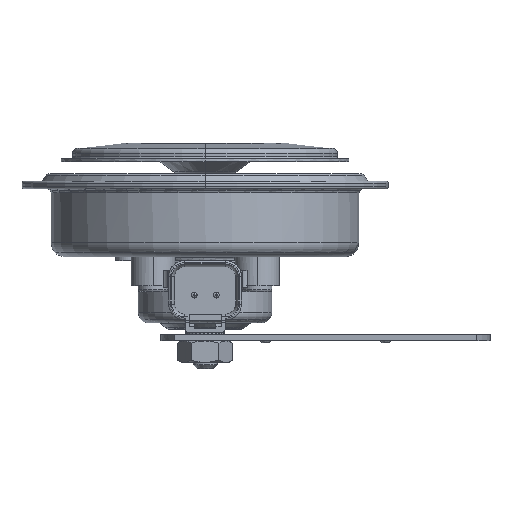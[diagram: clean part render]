
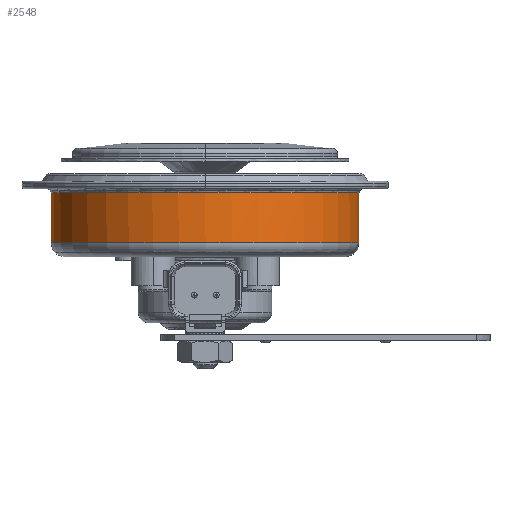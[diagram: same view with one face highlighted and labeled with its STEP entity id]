
A CAD part, front view. The second image highlights one B-rep face of the part: STEP entity #2548.
In plain terms, the highlighted cylindrical face has radius 38.349 mm (diameter 76.699 mm), a partial arc.
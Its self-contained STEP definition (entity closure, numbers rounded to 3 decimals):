
#2090=AXIS2_PLACEMENT_3D('Circle Axis2P3D',#2088,#2089,$) ;
#2115=AXIS2_PLACEMENT_3D('Circle Axis2P3D',#2113,#2114,$) ;
#2511=AXIS2_PLACEMENT_3D('Cylinder Axis2P3D',#2508,#2509,#2510) ;
#2530=AXIS2_PLACEMENT_3D('Circle Axis2P3D',#2528,#2529,$) ;
#2085=CARTESIAN_POINT('Vertex',(-38.348,-0.289,20.693)) ;
#2088=CARTESIAN_POINT('Axis2P3D Location',(0.,0.,20.693)) ;
#2092=CARTESIAN_POINT('Vertex',(-38.349,0.,20.693)) ;
#2113=CARTESIAN_POINT('Axis2P3D Location',(0.,0.,20.693)) ;
#2117=CARTESIAN_POINT('Vertex',(38.349,0.,20.693)) ;
#2508=CARTESIAN_POINT('Axis2P3D Location',(0.,0.,-2.72)) ;
#2513=CARTESIAN_POINT('Line Origine',(38.349,0.,-2.72)) ;
#2517=CARTESIAN_POINT('Vertex',(38.349,0.,33.093)) ;
#2521=CARTESIAN_POINT('Control Point',(38.349,-0.213,33.093)) ;
#2522=CARTESIAN_POINT('Control Point',(38.349,-0.142,33.093)) ;
#2523=CARTESIAN_POINT('Control Point',(38.349,-0.071,33.093)) ;
#2524=CARTESIAN_POINT('Control Point',(38.349,0.,33.093)) ;
#2525=CARTESIAN_POINT('Vertex',(38.349,-0.213,33.093)) ;
#2528=CARTESIAN_POINT('Axis2P3D Location',(0.,0.,33.093)) ;
#2532=CARTESIAN_POINT('Vertex',(-38.349,0.,33.093)) ;
#2535=CARTESIAN_POINT('Line Origine',(-38.349,0.,-2.72)) ;
#2089=DIRECTION('Axis2P3D Direction',(0.,-0.,1.)) ;
#2114=DIRECTION('Axis2P3D Direction',(0.,-0.,1.)) ;
#2509=DIRECTION('Axis2P3D Direction',(0.,0.,1.)) ;
#2510=DIRECTION('Axis2P3D XDirection',(-1.,0.,0.)) ;
#2514=DIRECTION('Vector Direction',(0.,0.,1.)) ;
#2529=DIRECTION('Axis2P3D Direction',(0.,0.,1.)) ;
#2536=DIRECTION('Vector Direction',(0.,0.,1.)) ;
#2515=VECTOR('Line Direction',#2514,1.) ;
#2537=VECTOR('Line Direction',#2536,1.) ;
#2541=ORIENTED_EDGE('',*,*,#2119,.F.) ;
#2542=ORIENTED_EDGE('',*,*,#2519,.T.) ;
#2543=ORIENTED_EDGE('',*,*,#2527,.F.) ;
#2544=ORIENTED_EDGE('',*,*,#2534,.F.) ;
#2545=ORIENTED_EDGE('',*,*,#2539,.F.) ;
#2546=ORIENTED_EDGE('',*,*,#2094,.F.) ;
#2548=ADVANCED_FACE('Body.6',(#2547),#2512,.T.) ;
#2520=B_SPLINE_CURVE_WITH_KNOTS('',3,(#2521,#2522,#2523,#2524),.UNSPECIFIED.,.F.,.U.,(4,4),(-0.107,0.107),.UNSPECIFIED.) ;
#2091=CIRCLE('generated circle',#2090,38.349) ;
#2116=CIRCLE('generated circle',#2115,38.349) ;
#2531=CIRCLE('generated circle',#2530,38.349) ;
#2512=CYLINDRICAL_SURFACE('generated cylinder',#2511,38.349) ;
#2094=EDGE_CURVE('',#2086,#2093,#2091,.F.) ;
#2119=EDGE_CURVE('',#2118,#2086,#2116,.F.) ;
#2519=EDGE_CURVE('',#2118,#2518,#2516,.T.) ;
#2527=EDGE_CURVE('',#2526,#2518,#2520,.T.) ;
#2534=EDGE_CURVE('',#2533,#2526,#2531,.T.) ;
#2539=EDGE_CURVE('',#2093,#2533,#2538,.T.) ;
#2540=EDGE_LOOP('',(#2541,#2542,#2543,#2544,#2545,#2546)) ;
#2547=FACE_OUTER_BOUND('',#2540,.T.) ;
#2516=LINE('Line',#2513,#2515) ;
#2538=LINE('Line',#2535,#2537) ;
#2086=VERTEX_POINT('',#2085) ;
#2093=VERTEX_POINT('',#2092) ;
#2118=VERTEX_POINT('',#2117) ;
#2518=VERTEX_POINT('',#2517) ;
#2526=VERTEX_POINT('',#2525) ;
#2533=VERTEX_POINT('',#2532) ;
